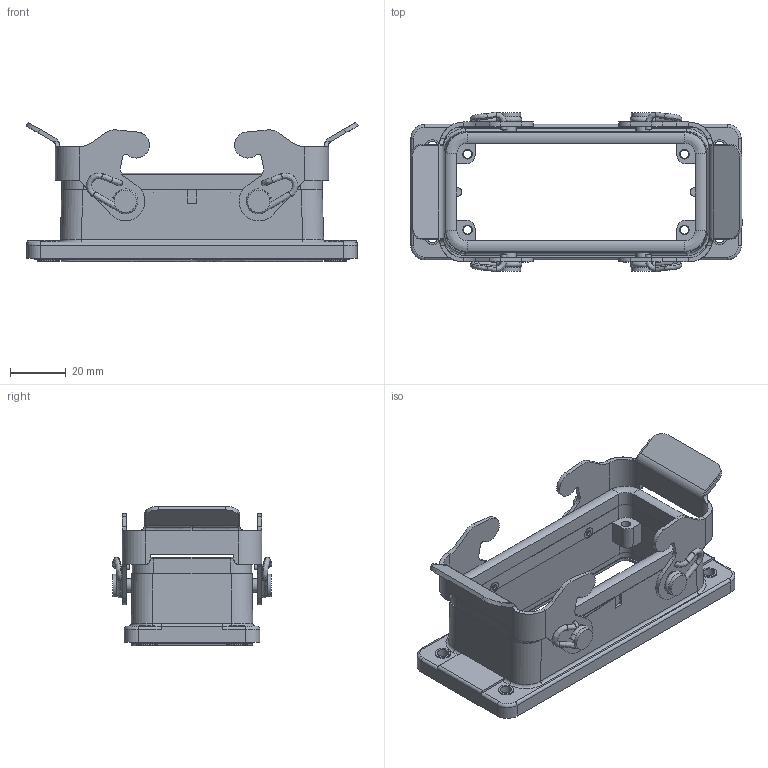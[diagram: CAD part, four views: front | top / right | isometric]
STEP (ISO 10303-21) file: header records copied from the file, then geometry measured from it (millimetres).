
FILE_DESCRIPTION(/* description */ (''),/* implementation_level */ '2;1');
FILE_NAME(/* name */ '100722583ugm000_f.stp',/* time_stamp */ '2022-08-08T13:55:33+02:00',/* author */ (''),/* organization */ (''),/* preprocessor_version */ 'ST-DEVELOPER v16.7',/* originating_system */ 'SIEMENS PLM Software NX 1911',/* authorisation */ '');
FILE_SCHEMA (('AUTOMOTIVE_DESIGN { 1 0 10303 214 3 1 1 1 }'));
Length unit declared in the file: millimetre
Products named in the file (1): 100722583ugm000_f
Bounding box: 118.62 x 57.11 x 49.8 mm (x, y, z)
Volume: 47823.3 mm3; surface area: 34836.6 mm2
Topology: 3 solids, 3 shells, 554 faces, 1551 edges, 1017 vertices
Faces by surface type: plane 268, cylinder 144, bspline 82, cone 26, torus 24, extrusion 8, sphere 2
Full cylindrical faces by diameter (mm): 2.05 x4, 3 x4, 4 x4, 4.1 x4, 4.77 x4, 7.599 x4, 8 x4
Entity records: 27077 total; most frequent: CARTESIAN_POINT 10382, ORIENTED_EDGE 2840, DIRECTION 2341, EDGE_CURVE 1420, VERTEX_POINT 969, AXIS2_PLACEMENT_3D 819, VECTOR 703, EDGE_LOOP 697
